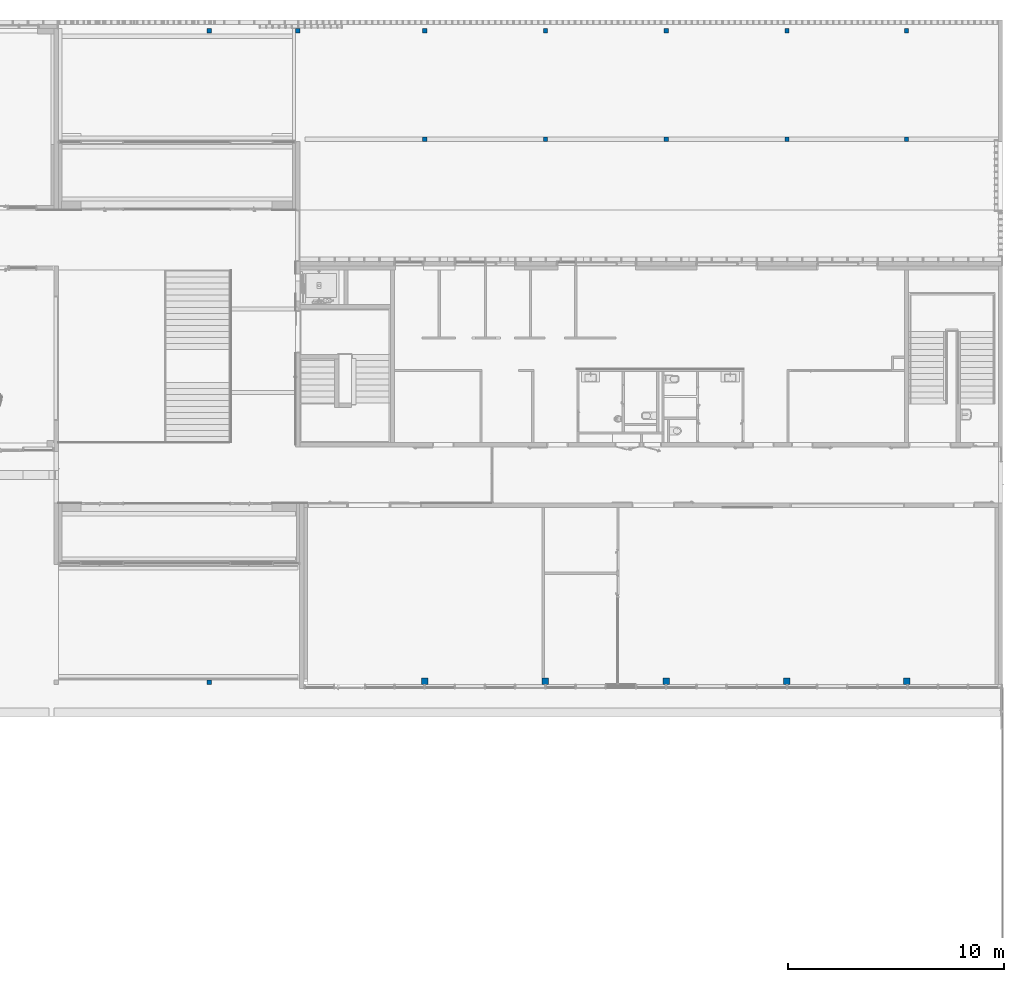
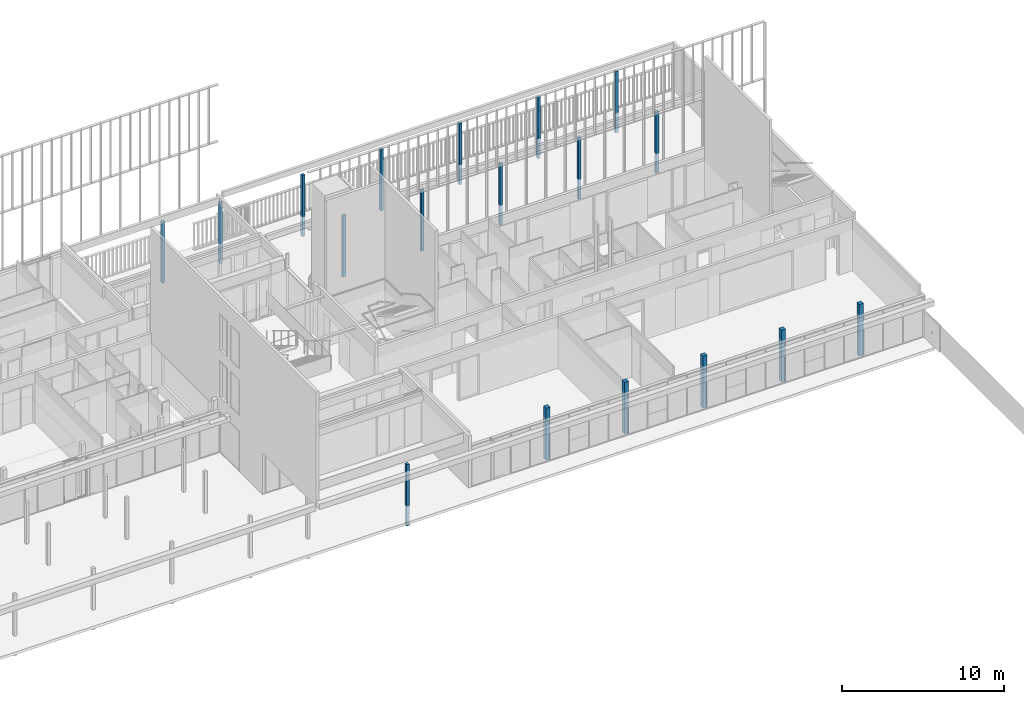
# One storey, part 2 of 240: 18 columns.
"""IFC2X3 building model written with IfcOpenShell, lengths in centimetres."""

from ifc_helpers import new_model, entity, si_unit, converted_unit, derived_unit, direction, frame, frame_2d, origin, origin_2d_with_axis, place, context, subcontext, project, spatial, rectangle, extrude, source, transform, mapped, material, type_object, type_shapes, element, save


model = new_model("IFC2X3")

# Units and contexts
model_context = context("Model", 3, precision=0.001, world=origin(), true_north=direction((6.12303176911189e-17, 1.0)))
body_context = subcontext(model_context, "Body", "Model", "MODEL_VIEW")
ifc_project = project(units=[si_unit("LENGTHUNIT", "METRE", prefix="CENTI"), si_unit("AREAUNIT", "SQUARE_METRE"), si_unit("VOLUMEUNIT", "CUBIC_METRE"), converted_unit("PLANEANGLEUNIT", "DEGREE", entity("IfcRatioMeasure", 0.0174532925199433), si_unit("PLANEANGLEUNIT", "RADIAN"), dimensions=[0, 0, 0, 0, 0, 0, 0]), si_unit("MASSUNIT", "GRAM", prefix="KILO"), derived_unit("MASSDENSITYUNIT", [(si_unit("MASSUNIT", "GRAM", prefix="KILO"), 1), (si_unit("LENGTHUNIT", "METRE"), -3)]), si_unit("TIMEUNIT", "SECOND"), si_unit("FREQUENCYUNIT", "HERTZ"), si_unit("THERMODYNAMICTEMPERATUREUNIT", "DEGREE_CELSIUS"), derived_unit("THERMALTRANSMITTANCEUNIT", [(si_unit("MASSUNIT", "GRAM", prefix="KILO"), 1), (si_unit("THERMODYNAMICTEMPERATUREUNIT", "KELVIN"), -1), (si_unit("TIMEUNIT", "SECOND"), -3)]), derived_unit("VOLUMETRICFLOWRATEUNIT", [(si_unit("LENGTHUNIT", "METRE"), 3), (si_unit("TIMEUNIT", "SECOND"), -1)]), si_unit("ELECTRICCURRENTUNIT", "AMPERE"), si_unit("ELECTRICVOLTAGEUNIT", "VOLT"), si_unit("POWERUNIT", "WATT"), si_unit("FORCEUNIT", "NEWTON", prefix="KILO"), si_unit("ILLUMINANCEUNIT", "LUX"), si_unit("LUMINOUSFLUXUNIT", "LUMEN"), si_unit("LUMINOUSINTENSITYUNIT", "CANDELA"), derived_unit("USERDEFINED", [(si_unit("MASSUNIT", "GRAM", prefix="KILO"), -1), (si_unit("LENGTHUNIT", "METRE"), -2), (si_unit("TIMEUNIT", "SECOND"), 3), (si_unit("LUMINOUSFLUXUNIT", "LUMEN"), 1)]), derived_unit("LINEARVELOCITYUNIT", [(si_unit("LENGTHUNIT", "METRE"), 1), (si_unit("TIMEUNIT", "SECOND"), -1)]), si_unit("PRESSUREUNIT", "PASCAL"), derived_unit("USERDEFINED", [(si_unit("LENGTHUNIT", "METRE"), -2), (si_unit("MASSUNIT", "GRAM", prefix="KILO"), 1), (si_unit("TIMEUNIT", "SECOND"), -2)])], contexts=[model_context])

# Site, building, storey
site_placement = place(None, frame((-2781.94577612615, 7442.24238424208, 0.0)))
site = spatial("IfcSite", under=ifc_project, at=site_placement, Name="Default", CompositionType="ELEMENT")
building_placement = place(site_placement, origin())
building = spatial("IfcBuilding", under=site, at=building_placement, CompositionType="ELEMENT")
storey_placement = place(building_placement, origin())
storey = spatial("IfcBuildingStorey", under=building, at=storey_placement, Name="N00 - COO", CompositionType="ELEMENT", Elevation=0.0)

# Columns
ifc_material = material(Name="Maçonnerie - Béton coulé sur place")
column_type_1 = type_object("IfcColumnType", Name="300mm x 300mm", PredefinedType="COLUMN")
shared_shape_1 = source(origin(), body_context, "Body", "SweptSolid", [
    extrude(rectangle(XDim=30.0, YDim=30.0, at=origin_2d_with_axis()), frame((0.0, 0.0, 0.0), z_axis=(0.0, 0.0, 1.0), x_axis=(0.0, -1.0, 0.0)), (0.0, 0.0, 1.0), 391.0),
])
type_shapes(column_type_1, [shared_shape_1])
for number, where in (
    (1, (-3069.99987760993, -3015.31349958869, 0.0)),
    (2, (-2509.99987760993, -3015.31349958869, 0.0)),
    (3, (-1949.99987760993, -3015.3134995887, 0.0)),
    (4, (-1389.99987760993, -3015.3134995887, 0.0)),
    (5, (-835.299882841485, -3015.3134995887, 0.0)),
):
    element("IfcColumn", number, at=place(building_placement, frame(where)), inside=storey, type_object=column_type_1, material=ifc_material, Name="Poteau béton - Carré:300mm x 300mm", ObjectType="Poteau béton - Carré:300mm x 300mm", context=body_context, shape_type="MappedRepresentation", body=[
        mapped(shared_shape_1, transform((0.0, 0.0, 0.0), scale=1.0)),
    ])
column_type_2 = type_object("IfcColumnType", Name="200mm x 200mm", PredefinedType="COLUMN")
shared_shape_2 = source(origin(), body_context, "Body", "SweptSolid", [
    extrude(rectangle(XDim=20.0, YDim=20.0, at=origin_2d_with_axis()), frame((0.0, 0.0, -150.0), z_axis=(0.0, 0.0, 1.0), x_axis=(0.0, -1.0, 0.0)), (0.0, 0.0, 1.0), 463.0),
])
type_shapes(column_type_2, [shared_shape_2])
for number, where in (
    (6, (-3069.99987760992, -502.548500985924, 0.0)),
    (7, (-3069.99987760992, 0.0, 0.0)),
    (8, (-2509.99987760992, 0.0, 0.0)),
    (9, (-1949.99987760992, 0.0, 0.0)),
    (10, (-1389.99987760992, 0.0, 0.0)),
    (11, (-835.29988284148, 0.0, 0.0)),
    (12, (-835.299882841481, -502.54850098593, 0.0)),
    (13, (-1949.99987760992, -502.548500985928, 0.0)),
    (14, (-2509.99987760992, -502.548500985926, 0.0)),
    (15, (-4069.50004159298, -3020.31349958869, 0.0)),
):
    element("IfcColumn", number, at=place(building_placement, frame(where)), inside=storey, type_object=column_type_2, material=ifc_material, Name="Poteau béton - Carré:200mm x 200mm", ObjectType="Poteau béton - Carré:200mm x 200mm", context=body_context, shape_type="MappedRepresentation", body=[
        mapped(shared_shape_2, transform((0.0, 0.0, 0.0), scale=1.0)),
    ])
column_type_3 = type_object("IfcColumnType", Name="200mm x 200mm", PredefinedType="COLUMN")
shared_shape_3 = source(origin(), body_context, "Body", "SweptSolid", [
    extrude(rectangle(XDim=20.0, YDim=20.0, at=frame_2d((0.0, -1.08357767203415e-13), x_axis=(1.0, 0.0))), frame((-1389.99987760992, -502.54850098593, -150.0), z_axis=(0.0, 0.0, 1.0), x_axis=(0.0, -1.0, 0.0)), (0.0, 0.0, 1.0), 463.0),
])
type_shapes(column_type_3, [shared_shape_3])
column_placement = place(building_placement, origin())
element("IfcColumn", 16, at=column_placement, inside=storey, type_object=column_type_3, material=ifc_material, Name="Poteau béton - Carré:200mm x 200mm", ObjectType="Poteau béton - Carré:200mm x 200mm", context=body_context, shape_type="MappedRepresentation", body=[
    mapped(shared_shape_3, transform((0.0, 0.0, 0.0), scale=1.0)),
])
column_type_4 = type_object("IfcColumnType", Name="200mm x 200mm", PredefinedType="COLUMN")
shared_shape_4 = source(origin(), body_context, "Body", "SweptSolid", [
    extrude(rectangle(XDim=20.0, YDim=20.0, at=origin_2d_with_axis()), frame((0.0, 0.0, -150.0), z_axis=(0.0, 0.0, 1.0), x_axis=(0.0, -1.0, 0.0)), (0.0, 0.0, 1.0), 463.0),
])
type_shapes(column_type_4, [shared_shape_4])
for number, where in (
    (17, (-4069.50004159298, 0.0, 0.0)),
    (18, (-3657.99987968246, 0.0, 0.0)),
):
    element("IfcColumn", number, at=place(storey_placement, frame(where)), inside=storey, type_object=column_type_4, material=ifc_material, Name="Poteau béton - Carré:200mm x 200mm", ObjectType="Poteau béton - Carré:200mm x 200mm", context=body_context, shape_type="MappedRepresentation", body=[
        mapped(shared_shape_4, transform((0.0, 0.0, 0.0), scale=1.0)),
    ])

save(model, "model.ifc")
